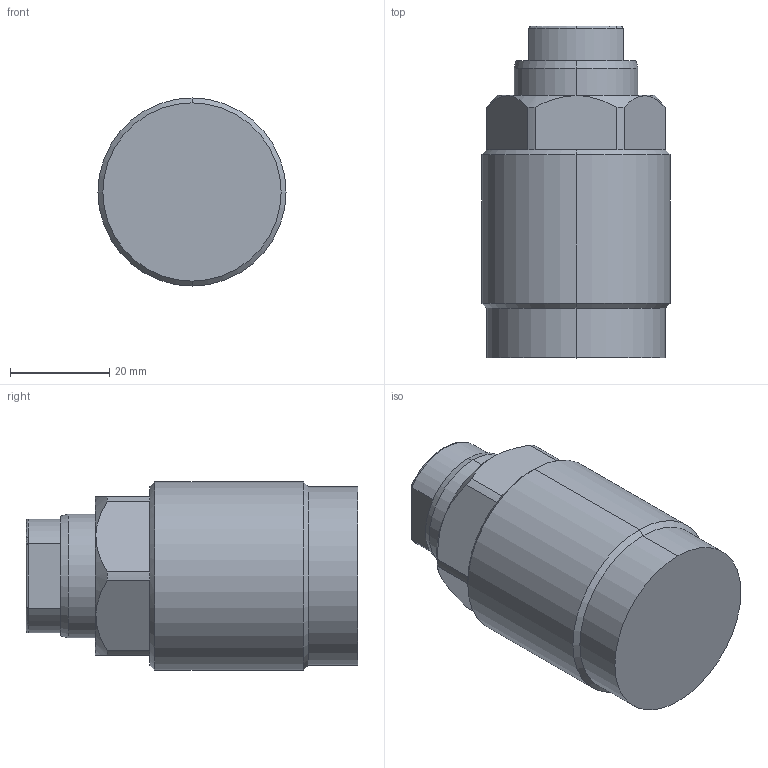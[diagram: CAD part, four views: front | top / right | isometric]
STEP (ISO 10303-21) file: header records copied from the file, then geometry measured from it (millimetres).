
FILE_DESCRIPTION (( 'STEP AP214' ), '1' );
FILE_NAME ('TC-25B.STEP', '2021-10-19T00:46:10', ( '' ), ( '' ), 'SwSTEP 2.0', 'SolidWorks 2016', '' );
FILE_SCHEMA (( 'AUTOMOTIVE_DESIGN' ));
Length unit declared in the file: millimetre
Products named in the file (1): TC-25B
Bounding box: 38 x 67 x 38 mm (x, y, z)
Volume: 61693 mm3; surface area: 9434.3 mm2
Topology: 1 solids, 1 shells, 50 faces, 112 edges, 65 vertices
Faces by surface type: cylinder 19, plane 18, cone 10, torus 3
Entity records: 1513 total; most frequent: CARTESIAN_POINT 342, DIRECTION 251, ORIENTED_EDGE 220, EDGE_CURVE 110, AXIS2_PLACEMENT_3D 102, VERTEX_POINT 65, EDGE_LOOP 53, CIRCLE 51
